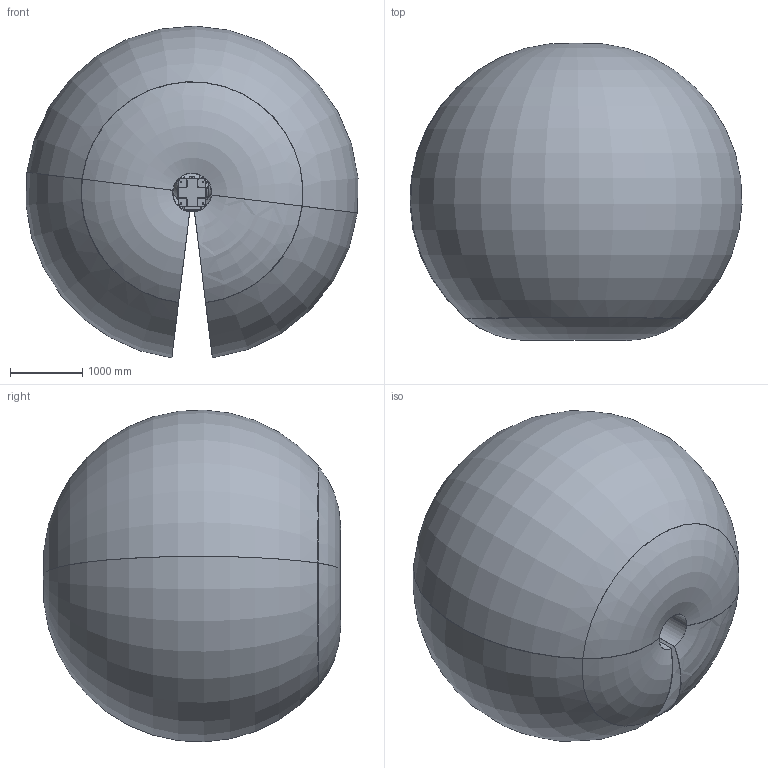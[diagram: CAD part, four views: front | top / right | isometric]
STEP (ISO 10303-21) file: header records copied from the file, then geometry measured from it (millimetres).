
FILE_DESCRIPTION (( 'STEP AP214' ), '1' );
FILE_NAME ('ER25-2300杅耀(婦釐)V1.3.STEP', '2023-10-17T03:28:42', ( '' ), ( '' ), 'SwSTEP 2.0', 'SolidWorks 2021', '' );
FILE_SCHEMA (( 'AUTOMOTIVE_DESIGN' ));
Length unit declared in the file: millimetre
Products named in the file (9): ER25-2300杅耀(婦釐)V1.3; 末端法兰^ER25-2300数模(包络)V1.3; 忒勂^ER25-2300杅耀(婦釐)V1.3; 湮旋^ER25-2300杅耀(婦釐)V1.3; 菁釱^ER25-2300杅耀(婦釐)V1.3; 苤旋裝^ER25-2300杅耀(婦釐)V1.3; 运动范围包络^ER25-2300数模(包络)V1.3; 蛌釱^ER25-2300杅耀(婦釐)V1.3; 苤旋^ER25-2300杅耀(婦釐)V1.3
Assembly tree (8 placements, depth 2):
  ER25-2300杅耀(婦釐)V1.3
    菁釱^ER25-2300杅耀(婦釐)V1.3
    蛌釱^ER25-2300杅耀(婦釐)V1.3
    湮旋^ER25-2300杅耀(婦釐)V1.3
    忒勂^ER25-2300杅耀(婦釐)V1.3
    苤旋^ER25-2300杅耀(婦釐)V1.3
    苤旋裝^ER25-2300杅耀(婦釐)V1.3
    末端法兰^ER25-2300数模(包络)V1.3
    运动范围包络^ER25-2300数模(包络)V1.3
Bounding box: 4582.99 x 4101.52 x 4580.58 mm (x, y, z)
Volume: 521435954.9 mm3; surface area: 143349872.6 mm2
Topology: 18 solids, 33 shells, 3812 faces, 9265 edges, 5628 vertices
Faces by surface type: bspline 1106, cylinder 1094, plane 930, torus 444, cone 204, sphere 34
Entity records: 252616 total; most frequent: CARTESIAN_POINT 138943, ORIENTED_EDGE 18362, DIRECTION 15251, EDGE_CURVE 9181, AXIS2_PLACEMENT_3D 6284, VERTEX_POINT 5624, EDGE_LOOP 4049, ADVANCED_FACE 3812
